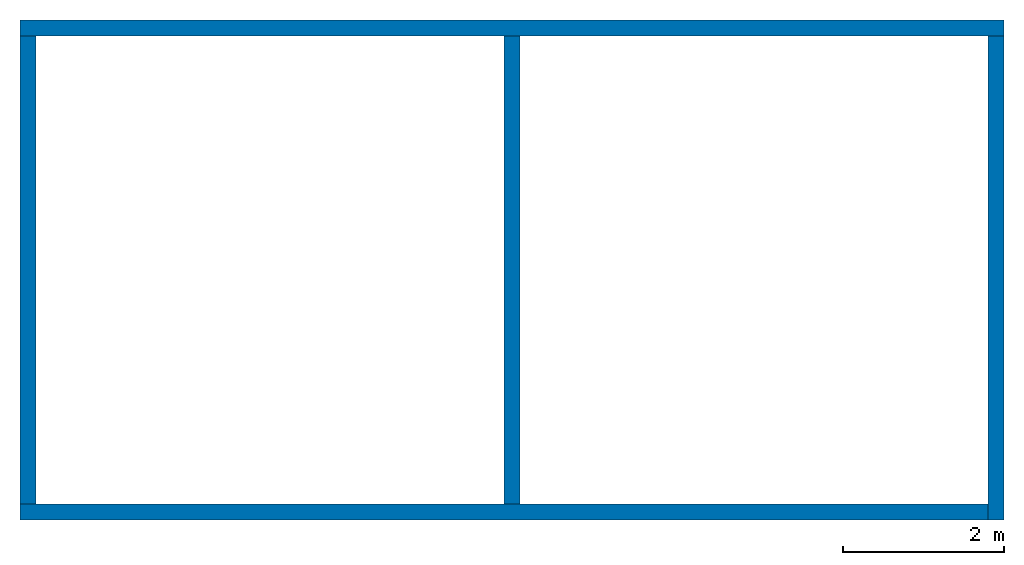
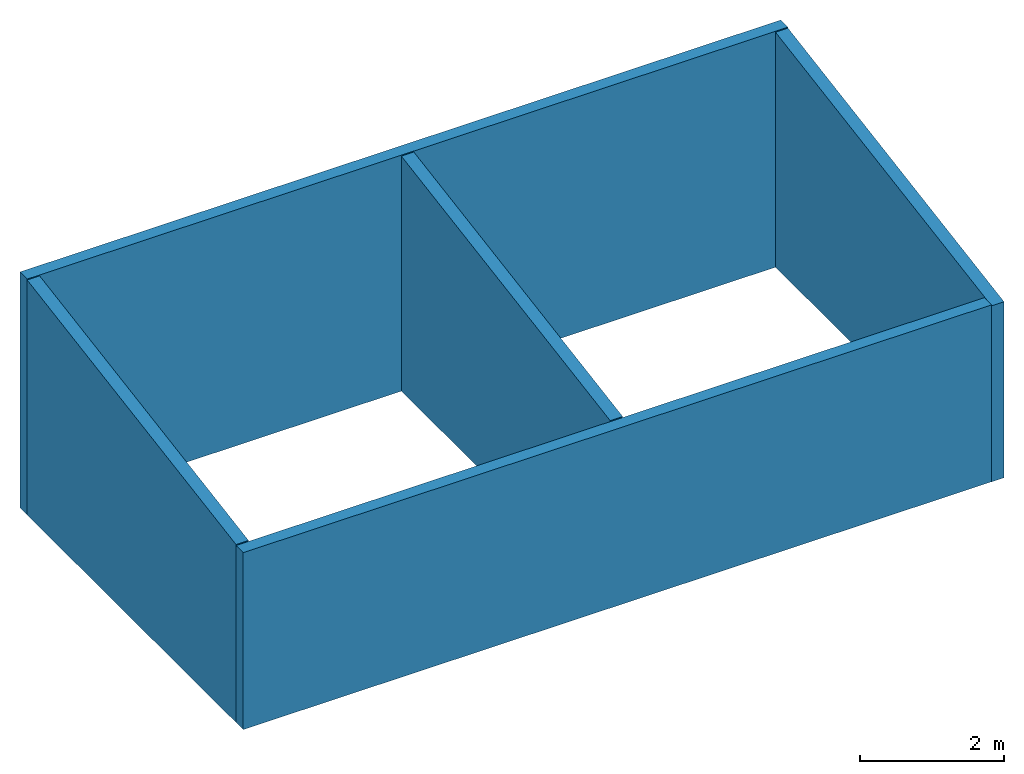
# One storey: 5 walls.
"""IFC2X3 building model written with IfcOpenShell, lengths in metres."""

from ifc_helpers import new_model, entity, si_unit, converted_unit, derived_unit, direction, frame, frame_2d, origin, place, context, subcontext, project, spatial, rectangle, extrude, clip, halfspace, material, layer, layer_set, layer_usage, type_object, element, save


model = new_model("IFC2X3")

# Units and contexts
model_context = context("Model", 3, precision=1e-05, world=origin(), true_north=direction((6.12303176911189e-17, 1.0)))
context_of_model = context(None, 3, precision=1e-05, world=origin(), true_north=direction((6.12303176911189e-17, 1.0)))
body_context = subcontext(model_context, "Body", "Model", "MODEL_VIEW")
ifc_project = project(units=[si_unit("LENGTHUNIT", "METRE"), si_unit("AREAUNIT", "SQUARE_METRE"), si_unit("VOLUMEUNIT", "CUBIC_METRE"), converted_unit("PLANEANGLEUNIT", "DEGREE", entity("IfcRatioMeasure", 0.0174532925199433), si_unit("PLANEANGLEUNIT", "RADIAN"), dimensions=[0, 0, 0, 0, 0, 0, 0]), si_unit("MASSUNIT", "GRAM", prefix="KILO"), si_unit("TIMEUNIT", "SECOND"), si_unit("FREQUENCYUNIT", "HERTZ"), si_unit("THERMODYNAMICTEMPERATUREUNIT", "DEGREE_CELSIUS"), derived_unit("THERMALTRANSMITTANCEUNIT", [(si_unit("MASSUNIT", "GRAM", prefix="KILO"), 1), (si_unit("THERMODYNAMICTEMPERATUREUNIT", "KELVIN"), -1), (si_unit("TIMEUNIT", "SECOND"), -3)]), derived_unit("VOLUMETRICFLOWRATEUNIT", [(si_unit("LENGTHUNIT", "METRE"), 3), (si_unit("TIMEUNIT", "SECOND"), -1)]), si_unit("ELECTRICCURRENTUNIT", "AMPERE"), si_unit("ELECTRICVOLTAGEUNIT", "VOLT"), si_unit("POWERUNIT", "WATT"), si_unit("FORCEUNIT", "NEWTON", prefix="KILO"), si_unit("ILLUMINANCEUNIT", "LUX"), si_unit("LUMINOUSFLUXUNIT", "LUMEN"), si_unit("LUMINOUSINTENSITYUNIT", "CANDELA"), si_unit("PRESSUREUNIT", "PASCAL")], contexts=[model_context, context_of_model])

# Site, building, storey
site_placement = place(None, origin())
site = spatial("IfcSite", under=ifc_project, at=site_placement, Name="Default", CompositionType="ELEMENT")
building_placement = place(site_placement, origin())
building = spatial("IfcBuilding", under=site, at=building_placement, CompositionType="ELEMENT")
storey_placement = place(building_placement, origin())
storey = spatial("IfcBuildingStorey", under=building, at=storey_placement, Name="Niveau 0", CompositionType="ELEMENT", Elevation=-1.94916083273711e-14)

# Walls
ifc_material = material(Name="Maçonnerie - Voile BA")
ifc_layer = layer(ifc_material, 0.2)
ifc_layer_set = layer_set([ifc_layer], Name="Mur de base:Ext. Voile BA 20")
ifc_layer_usage_1 = layer_usage(ifc_layer_set, "AXIS2", "NEGATIVE", 0.1)
wall_type = type_object("IfcWallType", Name="Mur de base:Ext. Voile BA 20", PredefinedType="STANDARD", material=ifc_layer_set)
wall_1_placement = place(storey_placement, frame((-14.5000277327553, 2.60167521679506, 0.0)))
element("IfcWallStandardCase", 1, at=wall_1_placement, inside=storey, type_object=wall_type, material=ifc_layer_usage_1, Name="Mur de base:Ext. Voile BA 20", ObjectType="Mur de base:Ext. Voile BA 20", context=body_context, shape_type="SweptSolid", body=[
    extrude(rectangle(XDim=12.2, YDim=0.2, at=frame_2d((6.1, -2.70616862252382e-16), x_axis=(-1.0, 0.0))), origin(), (0.0, 0.0, 1.0), 4.00000000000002),
])
ifc_layer_usage_2 = layer_usage(ifc_layer_set, "AXIS2", "NEGATIVE", 0.1)
wall_2_placement = place(storey_placement, frame((-2.40002773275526, 2.50167521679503, 0.0), z_axis=(0.0, 0.0, 1.0), x_axis=(0.0, -1.0, 0.0)))
element("IfcWallStandardCase", 2, at=wall_2_placement, inside=storey, type_object=wall_type, material=ifc_layer_usage_2, Name="Mur de base:Ext. Voile BA 20", ObjectType="Mur de base:Ext. Voile BA 20", context=body_context, shape_type="Clipping", body=[
    clip(extrude(rectangle(XDim=6.0, YDim=0.2, at=frame_2d((3.0, 0.0), x_axis=(-1.0, 0.0))), origin(), (0.0, 0.0, 1.0), 4.00000000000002), halfspace(frame((0.0, -0.1, 3.98333333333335), z_axis=(0.16439898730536, 0.0, 0.986393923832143), x_axis=(0.0, 1.0, 0.0)), False)),
])
ifc_layer_usage_3 = layer_usage(ifc_layer_set, "AXIS2", "NEGATIVE", 0.1)
wall_3_placement = place(storey_placement, frame((-2.50002773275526, -3.39832478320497, 0.0), z_axis=(0.0, 0.0, 1.0), x_axis=(-1.0, 0.0, 0.0)))
element("IfcWallStandardCase", 3, at=wall_3_placement, inside=storey, type_object=wall_type, material=ifc_layer_usage_3, Name="Mur de base:Ext. Voile BA 20", ObjectType="Mur de base:Ext. Voile BA 20", context=body_context, shape_type="SweptSolid", body=[
    extrude(rectangle(XDim=12.0, YDim=0.2, at=frame_2d((6.0, 0.0), x_axis=(-1.0, 0.0))), origin(), (0.0, 0.0, 1.0), 3.0),
])
ifc_layer_usage_4 = layer_usage(ifc_layer_set, "AXIS2", "NEGATIVE", 0.1)
wall_4_placement = place(storey_placement, frame((-8.40002773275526, 2.50167521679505, 0.0), z_axis=(0.0, 0.0, 1.0), x_axis=(0.0, -1.0, 0.0)))
element("IfcWallStandardCase", 4, at=wall_4_placement, inside=storey, type_object=wall_type, material=ifc_layer_usage_4, Name="Mur de base:Ext. Voile BA 20", ObjectType="Mur de base:Ext. Voile BA 20", context=body_context, shape_type="Clipping", body=[
    clip(extrude(rectangle(XDim=5.8, YDim=0.2, at=frame_2d((2.9, -1.59594559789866e-16), x_axis=(-1.0, 0.0))), origin(), (0.0, 0.0, 1.0), 4.00000000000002), halfspace(frame((0.0, -0.0999999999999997, 3.98333333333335), z_axis=(0.164398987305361, 0.0, 0.986393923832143), x_axis=(0.0, 1.0, 0.0)), False)),
])
ifc_layer_usage_5 = layer_usage(ifc_layer_set, "AXIS2", "NEGATIVE", 0.1)
wall_5_placement = place(storey_placement, frame((-14.4000277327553, 2.50167521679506, 0.0), z_axis=(0.0, 0.0, 1.0), x_axis=(0.0, -1.0, 0.0)))
element("IfcWallStandardCase", 5, at=wall_5_placement, inside=storey, type_object=wall_type, material=ifc_layer_usage_5, Name="Mur de base:Ext. Voile BA 20", ObjectType="Mur de base:Ext. Voile BA 20", context=body_context, shape_type="Clipping", body=[
    clip(extrude(rectangle(XDim=5.79999999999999, YDim=0.199999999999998, at=frame_2d((2.9, 0.0), x_axis=(-1.0, 0.0))), origin(), (0.0, 0.0, 1.0), 4.00000000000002), halfspace(frame((0.0, -0.100000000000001, 3.98333333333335), z_axis=(0.16439898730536, 0.0, 0.986393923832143), x_axis=(0.0, 1.0, 0.0)), False)),
])

save(model, "model.ifc")
